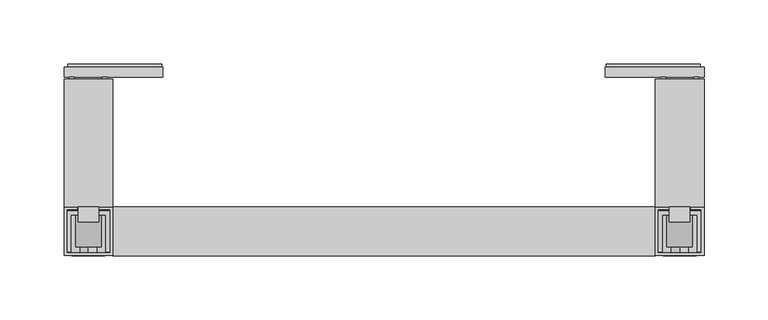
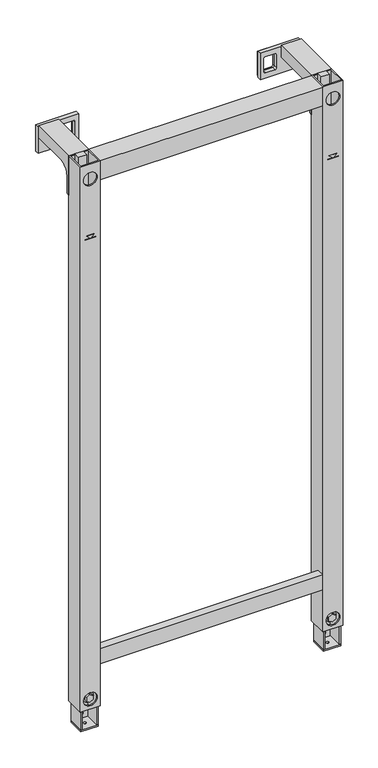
"""IFC4 building model written with IfcOpenShell, lengths in millimetres: flow terminal geometry, nextVIT Montageelement Dusch und Badewannenarmatur : nextVIT Montageelement Dusch und Badewannenarmatur."""

from ifc_helpers import new_model, si_unit, point, frame, frame_2d, origin, place, context, project, spatial, polyline, circle_curve, trimmed, segment, composite_curve, outline, extrude, source, transform, mapped, element, save
from ifc_brep_helpers import plane_surface, revolved_surface, advanced_brep


def flow_terminal_2a0403e4(model_context):
    return source(origin(), model_context, "Body", "SolidModel", [
        extrude(outline(polyline([(1141.522581, 173.5), (1093.522581, 173.5), (1093.522581, 247.0), (1141.522581, 247.0), (1141.522581, 173.5)]), holes=[composite_curve([segment(polyline([(1104.522581, 180.0), (1130.522581, 180.0)]), True, "CONTINUOUS"), segment(trimmed(circle_curve(frame_2d((1130.522581, 183.0)), 3.0), [point((1130.522581, 180.0))], [point((1133.522581, 183.0))], True, "CARTESIAN"), True, "CONTINUOUS"), segment(polyline([(1133.522581, 183.0), (1133.522581, 200.5)]), True, "CONTINUOUS"), segment(trimmed(circle_curve(frame_2d((1130.522581, 200.5)), 3.0), [point((1133.522581, 200.5))], [point((1130.522581, 203.5))], True, "CARTESIAN"), True, "CONTINUOUS"), segment(polyline([(1130.522581, 203.5), (1104.522581, 203.5)]), True, "CONTINUOUS"), segment(trimmed(circle_curve(frame_2d((1104.522581, 200.5)), 3.0), [point((1104.522581, 203.5))], [point((1101.522581, 200.5))], True, "CARTESIAN"), True, "CONTINUOUS"), segment(polyline([(1101.522581, 200.5), (1101.522581, 183.0)]), True, "CONTINUOUS"), segment(trimmed(circle_curve(frame_2d((1104.522581, 183.0)), 3.0), [point((1101.522581, 183.0))], [point((1104.522581, 180.0))], True, "CARTESIAN"), True, "CONTINUOUS")], self_intersect=False)]), frame((0.0, -2.5, 0.0), z_axis=(0.0, 1.0, 0.0), x_axis=(0.0, 0.0, 1.0)), (0.0, 0.0, 1.0), 2.5),
        extrude(outline(polyline([(1141.522581, -173.5), (1141.522581, -247.0), (1093.522581, -247.0), (1093.522581, -173.5), (1141.522581, -173.5)]), holes=[composite_curve([segment(trimmed(circle_curve(frame_2d((1104.522581, -183.0)), 3.0), [point((1104.522581, -180.0))], [point((1101.522581, -183.0))], True, "CARTESIAN"), True, "CONTINUOUS"), segment(polyline([(1101.522581, -183.0), (1101.522581, -200.5)]), True, "CONTINUOUS"), segment(trimmed(circle_curve(frame_2d((1104.522581, -200.5)), 3.0), [point((1101.522581, -200.5))], [point((1104.522581, -203.5))], True, "CARTESIAN"), True, "CONTINUOUS"), segment(polyline([(1104.522581, -203.5), (1130.522581, -203.5)]), True, "CONTINUOUS"), segment(trimmed(circle_curve(frame_2d((1130.522581, -200.5)), 3.0), [point((1130.522581, -203.5))], [point((1133.522581, -200.5))], True, "CARTESIAN"), True, "CONTINUOUS"), segment(polyline([(1133.522581, -200.5), (1133.522581, -183.0)]), True, "CONTINUOUS"), segment(trimmed(circle_curve(frame_2d((1130.522581, -183.0)), 3.0), [point((1133.522581, -183.0))], [point((1130.522581, -180.0))], True, "CARTESIAN"), True, "CONTINUOUS"), segment(polyline([(1130.522581, -180.0), (1104.522581, -180.0)]), True, "CONTINUOUS")], self_intersect=False)]), frame((0.0, -2.5, 0.0), z_axis=(0.0, 1.0, 0.0), x_axis=(0.0, 0.0, 1.0)), (0.0, 0.0, 1.0), 2.5),
        extrude(outline(polyline([(-223.0, -112.0), (-223.0, -123.5), (-239.0, -123.5), (-239.0, -112.0), (-223.0, -112.0)])), frame((0.0, 0.0, 1113.0), z_axis=(0.0, 0.0, 1.0), x_axis=(1.0, 0.0, 0.0)), (0.0, 0.0, 1.0), 35.0),
        extrude(outline(polyline([(1144.022581, -250.0), (1091.022581, -250.0), (1091.022581, -173.0), (1144.022581, -173.0), (1144.022581, -250.0)]), holes=[composite_curve([segment(polyline([(1133.522581, -200.5), (1133.522581, -183.0)]), True, "CONTINUOUS"), segment(trimmed(circle_curve(frame_2d((1130.522581, -183.0)), 3.0), [point((1133.522581, -183.0))], [point((1130.522581, -180.0))], True, "CARTESIAN"), True, "CONTINUOUS"), segment(polyline([(1130.522581, -180.0), (1104.522581, -180.0)]), True, "CONTINUOUS"), segment(trimmed(circle_curve(frame_2d((1104.522581, -183.0)), 3.0), [point((1104.522581, -180.0))], [point((1101.522581, -183.0))], True, "CARTESIAN"), True, "CONTINUOUS"), segment(polyline([(1101.522581, -183.0), (1101.522581, -200.5)]), True, "CONTINUOUS"), segment(trimmed(circle_curve(frame_2d((1104.522581, -200.5)), 3.0), [point((1101.522581, -200.5))], [point((1104.522581, -203.5))], True, "CARTESIAN"), True, "CONTINUOUS"), segment(polyline([(1104.522581, -203.5), (1130.522581, -203.5)]), True, "CONTINUOUS"), segment(trimmed(circle_curve(frame_2d((1130.522581, -200.5)), 3.0), [point((1130.522581, -203.5))], [point((1133.522581, -200.5))], True, "CARTESIAN"), True, "CONTINUOUS")], self_intersect=False)]), frame((0.0, -10.5, 0.0), z_axis=(0.0, 1.0, 0.0), x_axis=(0.0, 0.0, 1.0)), (0.0, 0.0, 1.0), 8.0),
        extrude(outline(polyline([(1128.022581, -220.05), (1128.022581, -241.95), (1145.0, -241.95), (1145.0, -245.95), (1124.5225837, -245.95), (1124.5225837, -216.05), (1145.0, -216.05), (1145.0, -220.05), (1128.022581, -220.05)])), frame((0.0, -105.0, 0.0), z_axis=(0.0, 1.0, 0.0), x_axis=(0.0, 0.0, 1.0)), (0.0, 0.0, 1.0), 94.5),
        advanced_brep(
        [(-212.0, -12.0882353, 1124.0), (-212.0, -12.0882353, 1148.0), (-212.0, -112.0, 1148.0), (-212.0, -112.0, 1069.0231613), (-212.0, -106.0, 1069.0231613), (-212.0, -106.0, 1104.0), (-212.0, -86.0, 1124.0), (-250.0, -12.0882353, 1124.0), (-250.0, -86.0, 1124.0), (-250.0, -106.0, 1104.0), (-250.0, -106.0, 1069.0231613), (-250.0, -112.0, 1069.0231613), (-250.0, -112.0, 1148.0), (-250.0, -12.0882353, 1148.0), (-215.0, -12.0882353, 1124.0), (-215.0, -12.0882353, 1144.0), (-247.0, -12.0882353, 1144.0), (-247.0, -12.0882353, 1124.0), (-247.0, -106.0, 1104.0), (-247.0, -106.0, 1144.0), (-215.0, -106.0, 1144.0), (-215.0, -106.0, 1104.0), (-215.0, -86.0, 1124.0), (-247.0, -86.0, 1124.0)],
        [
            (0, 1),
            (1, 2),
            (2, 3),
            (3, 4),
            (4, 5),
            (5, 6, circle_curve(frame((-212.0, -86.0, 1104.0), z_axis=(-1.0, 0.0, 0.0), x_axis=(0.0, 1.0, 0.0)), 20.0)),
            (6, 0),
            (7, 8),
            (8, 9, circle_curve(frame((-250.0, -86.0, 1104.0), z_axis=(1.0, 0.0, 0.0), x_axis=(0.0, 1.0, 0.0)), 20.0)),
            (9, 10),
            (10, 11),
            (11, 12),
            (12, 13),
            (13, 7),
            (0, 14),
            (14, 15),
            (15, 16),
            (16, 17),
            (17, 7),
            (13, 1),
            (12, 2),
            (11, 3),
            (10, 4),
            (9, 18),
            (18, 19),
            (19, 20),
            (20, 21),
            (21, 5),
            (21, 22, circle_curve(frame((-215.0, -86.0, 1104.0), z_axis=(-1.0, 0.0, 0.0), x_axis=(0.0, 1.0, 0.0)), 20.0)),
            (22, 6),
            (8, 23),
            (23, 18, circle_curve(frame((-247.0, -86.0, 1104.0), z_axis=(1.0, 0.0, 0.0), x_axis=(0.0, 1.0, 0.0)), 20.0)),
            (22, 14),
            (17, 23),
            (20, 15),
            (19, 16),
        ],
        [
            plane_surface(frame((-212.0, -12.0882353, 1124.0), z_axis=(1.0, 0.0, 0.0), x_axis=(0.0, 0.0, 1.0))),
            plane_surface(frame((-250.0, -12.0882353, 1124.0), z_axis=(-1.0, 0.0, 0.0), x_axis=(0.0, 0.0, -1.0))),
            plane_surface(frame((-212.0, -12.0882353, 1124.0), z_axis=(0.0, 1.0, 0.0), x_axis=(-1.0, 0.0, 0.0))),
            plane_surface(frame((-212.0, -12.0882353, 1148.0), z_axis=(0.0, 0.0, 1.0), x_axis=(-1.0, 0.0, 0.0))),
            plane_surface(frame((-212.0, -112.0, 1148.0), z_axis=(0.0, -1.0, 0.0), x_axis=(-1.0, 0.0, 0.0))),
            plane_surface(frame((-212.0, -112.0, 1069.0231613), z_axis=(0.0, 0.0, -1.0), x_axis=(-1.0, 0.0, 0.0))),
            plane_surface(frame((-212.0, -106.0, 1069.0231613), z_axis=(0.0, 1.0, 0.0), x_axis=(-1.0, 0.0, 0.0))),
            revolved_surface(polyline([(-215.0, -66.0, 1104.0), (-212.0, -66.0, 1104.0)]), (-250.0, -86.0, 1104.0), (-1.0, 0.0, 0.0)),
            revolved_surface(polyline([(-250.0, -66.0, 1104.0), (-247.0, -66.0, 1104.0)]), (-250.0, -86.0, 1104.0), (-1.0, 0.0, 0.0)),
            plane_surface(frame((-212.0, -86.0, 1124.0), z_axis=(0.0, 0.0, -1.0), x_axis=(-1.0, 0.0, 0.0))),
            plane_surface(frame((-215.0, -106.0, 1102.9875977), z_axis=(-1.0, 0.0, 0.0), x_axis=(0.0, 1.0, 0.0))),
            plane_surface(frame((-215.0, -106.0, 1144.0), z_axis=(0.0, 0.0, -1.0), x_axis=(0.0, 1.0, 0.0))),
            plane_surface(frame((-247.0, -106.0, 1144.0), z_axis=(1.0, 0.0, 0.0), x_axis=(0.0, 1.0, 0.0))),
        ],
        [
            (0, [[1, 2, 3, 4, 5, 6, 7]]),
            (1, [[8, 9, 10, 11, 12, 13, 14]]),
            (2, [[-1, 15, 16, 17, 18, 19, -14, 20]]),
            (3, [[-2, -20, -13, 21]]),
            (4, [[-3, -21, -12, 22]]),
            (5, [[-4, -22, -11, 23]]),
            (6, [[-5, -23, -10, 24, 25, 26, 27, 28]]),
            (7, [[-6, -28, 29, 30]]),
            (8, [[-9, 31, 32, -24]]),
            (9, [[-7, -30, 33, -15]]),
            (9, [[-8, -19, 34, -31]]),
            (10, [[35, -16, -33, -29, -27]]),
            (11, [[-26, 36, -17, -35]]),
            (12, [[-36, -25, -32, -34, -18]]),
        ],
    ),
        extrude(outline(polyline([(223.0, -112.0), (239.0, -112.0), (239.0, -123.5), (223.0, -123.5), (223.0, -112.0)])), frame((0.0, 0.0, 1113.0), z_axis=(0.0, 0.0, 1.0), x_axis=(1.0, 0.0, 0.0)), (0.0, 0.0, 1.0), 35.0),
        extrude(outline(polyline([(1144.022581, 250.0), (1144.022581, 173.0), (1091.022581, 173.0), (1091.022581, 250.0), (1144.022581, 250.0)]), holes=[composite_curve([segment(trimmed(circle_curve(frame_2d((1130.522581, 200.5)), 3.0), [point((1133.522581, 200.5))], [point((1130.522581, 203.5))], True, "CARTESIAN"), True, "CONTINUOUS"), segment(polyline([(1130.522581, 203.5), (1104.522581, 203.5)]), True, "CONTINUOUS"), segment(trimmed(circle_curve(frame_2d((1104.522581, 200.5)), 3.0), [point((1104.522581, 203.5))], [point((1101.522581, 200.5))], True, "CARTESIAN"), True, "CONTINUOUS"), segment(polyline([(1101.522581, 200.5), (1101.522581, 183.0)]), True, "CONTINUOUS"), segment(trimmed(circle_curve(frame_2d((1104.522581, 183.0)), 3.0), [point((1101.522581, 183.0))], [point((1104.522581, 180.0))], True, "CARTESIAN"), True, "CONTINUOUS"), segment(polyline([(1104.522581, 180.0), (1130.522581, 180.0)]), True, "CONTINUOUS"), segment(trimmed(circle_curve(frame_2d((1130.522581, 183.0)), 3.0), [point((1130.522581, 180.0))], [point((1133.522581, 183.0))], True, "CARTESIAN"), True, "CONTINUOUS"), segment(polyline([(1133.522581, 183.0), (1133.522581, 200.5)]), True, "CONTINUOUS")], self_intersect=False)]), frame((0.0, -10.5, 0.0), z_axis=(0.0, 1.0, 0.0), x_axis=(0.0, 0.0, 1.0)), (0.0, 0.0, 1.0), 8.0),
        extrude(outline(polyline([(1128.022581, 220.05), (1145.0, 220.05), (1145.0, 216.05), (1124.5225837, 216.05), (1124.5225837, 245.95), (1145.0, 245.95), (1145.0, 241.95), (1128.022581, 241.95), (1128.022581, 220.05)])), frame((0.0, -105.0, 0.0), z_axis=(0.0, 1.0, 0.0), x_axis=(0.0, 0.0, 1.0)), (0.0, 0.0, 1.0), 94.5),
        advanced_brep(
        [(212.0, -12.0882353, 1124.0), (212.0, -86.0, 1124.0), (212.0, -106.0, 1104.0), (212.0, -106.0, 1069.0231613), (212.0, -112.0, 1069.0231613), (212.0, -112.0, 1148.0), (212.0, -12.0882353, 1148.0), (250.0, -12.0882353, 1124.0), (250.0, -12.0882353, 1148.0), (250.0, -112.0, 1148.0), (250.0, -112.0, 1069.0231613), (250.0, -106.0, 1069.0231613), (250.0, -106.0, 1104.0), (250.0, -86.0, 1124.0), (247.0, -12.0882353, 1124.0), (247.0, -12.0882353, 1144.0), (215.0, -12.0882353, 1144.0), (215.0, -12.0882353, 1124.0), (215.0, -106.0, 1104.0), (215.0, -106.0, 1144.0), (247.0, -106.0, 1144.0), (247.0, -106.0, 1104.0), (215.0, -86.0, 1124.0), (247.0, -86.0, 1124.0)],
        [
            (0, 1),
            (1, 2, circle_curve(frame((212.0, -86.0, 1104.0), z_axis=(1.0, 0.0, 0.0), x_axis=(0.0, 1.0, 0.0)), 20.0)),
            (2, 3),
            (3, 4),
            (4, 5),
            (5, 6),
            (6, 0),
            (7, 8),
            (8, 9),
            (9, 10),
            (10, 11),
            (11, 12),
            (12, 13, circle_curve(frame((250.0, -86.0, 1104.0), z_axis=(-1.0, 0.0, 0.0), x_axis=(0.0, 1.0, 0.0)), 20.0)),
            (13, 7),
            (6, 8),
            (7, 14),
            (14, 15),
            (15, 16),
            (16, 17),
            (17, 0),
            (5, 9),
            (4, 10),
            (3, 11),
            (2, 18),
            (18, 19),
            (19, 20),
            (20, 21),
            (21, 12),
            (1, 22),
            (22, 18, circle_curve(frame((215.0, -86.0, 1104.0), z_axis=(1.0, 0.0, 0.0), x_axis=(0.0, 1.0, 0.0)), 20.0)),
            (21, 23, circle_curve(frame((247.0, -86.0, 1104.0), z_axis=(-1.0, 0.0, 0.0), x_axis=(0.0, 1.0, 0.0)), 20.0)),
            (23, 13),
            (17, 22),
            (23, 14),
            (16, 19),
            (15, 20),
        ],
        [
            plane_surface(frame((212.0, -12.0882353, 1124.0), z_axis=(-1.0, 0.0, 0.0), x_axis=(0.0, 0.0, -1.0))),
            plane_surface(frame((250.0, -12.0882353, 1124.0), z_axis=(1.0, 0.0, 0.0), x_axis=(0.0, 0.0, 1.0))),
            plane_surface(frame((250.0, -12.0882353, 1124.0), z_axis=(0.0, 1.0, 0.0), x_axis=(-1.0, 0.0, 0.0))),
            plane_surface(frame((250.0, -12.0882353, 1148.0), z_axis=(0.0, 0.0, 1.0), x_axis=(-1.0, 0.0, 0.0))),
            plane_surface(frame((250.0, -112.0, 1148.0), z_axis=(0.0, -1.0, 0.0), x_axis=(-1.0, 0.0, 0.0))),
            plane_surface(frame((250.0, -112.0, 1069.0231613), z_axis=(0.0, 0.0, -1.0), x_axis=(-1.0, 0.0, 0.0))),
            plane_surface(frame((250.0, -106.0, 1069.0231613), z_axis=(0.0, 1.0, 0.0), x_axis=(-1.0, 0.0, 0.0))),
            revolved_surface(polyline([(212.0, -66.0, 1104.0), (215.0, -66.0, 1104.0)]), (212.0, -86.0, 1104.0), (-1.0, 0.0, 0.0)),
            revolved_surface(polyline([(247.0, -66.0, 1104.0), (250.0, -66.0, 1104.0)]), (212.0, -86.0, 1104.0), (-1.0, 0.0, 0.0)),
            plane_surface(frame((250.0, -86.0, 1124.0), z_axis=(0.0, 0.0, -1.0), x_axis=(-1.0, 0.0, 0.0))),
            plane_surface(frame((215.0, -106.0, 1144.0), z_axis=(1.0, 0.0, 0.0), x_axis=(0.0, 1.0, 0.0))),
            plane_surface(frame((247.0, -106.0, 1144.0), z_axis=(0.0, 0.0, -1.0), x_axis=(0.0, 1.0, 0.0))),
            plane_surface(frame((247.0, -106.0, 1102.9875977), z_axis=(-1.0, 0.0, 0.0), x_axis=(0.0, 1.0, 0.0))),
        ],
        [
            (0, [[1, 2, 3, 4, 5, 6, 7]]),
            (1, [[8, 9, 10, 11, 12, 13, 14]]),
            (2, [[-7, 15, -8, 16, 17, 18, 19, 20]]),
            (3, [[-6, 21, -9, -15]]),
            (4, [[-5, 22, -10, -21]]),
            (5, [[-4, 23, -11, -22]]),
            (6, [[-3, 24, 25, 26, 27, 28, -12, -23]]),
            (7, [[-2, 29, 30, -24]]),
            (8, [[-13, -28, 31, 32]]),
            (9, [[-1, -20, 33, -29]]),
            (9, [[-14, -32, 34, -16]]),
            (10, [[35, -25, -30, -33, -19]]),
            (11, [[-26, -35, -18, 36]]),
            (12, [[-36, -17, -34, -31, -27]]),
        ],
    ),
        extrude(outline(polyline([(79.7055535, -231.0), (75.9527767, -237.5), (68.4472233, -237.5), (64.6944465, -231.0), (68.4472233, -224.5), (75.9527767, -224.5), (79.7055535, -231.0)])), frame((0.0, -148.3, 0.0), z_axis=(0.0, 1.0, 0.0), x_axis=(0.0, 0.0, 1.0)), (0.0, 0.0, 1.0), 5.3),
        extrude(outline(composite_curve([segment(trimmed(circle_curve(frame_2d((72.2, -231.0)), 10.0), [point((72.2, -241.0))], [point((72.2, -221.0))], False, "CARTESIAN"), True, "CONTINUOUS"), segment(trimmed(circle_curve(frame_2d((72.2, -231.0)), 10.0), [point((72.2, -221.0))], [point((72.2, -241.0))], False, "CARTESIAN"), True, "CONTINUOUS")], self_intersect=False)), frame((0.0, -143.0, 0.0), z_axis=(0.0, 1.0, 0.0), x_axis=(0.0, 0.0, 1.0)), (0.0, 0.0, 1.0), 26.0),
        extrude(outline(polyline([(-246.0, -109.0), (-216.0, -109.0), (-216.0, -112.0), (-246.0, -112.0), (-246.0, -109.0)])), frame((0.0, 0.0, 52.2), z_axis=(0.0, 0.0, 1.0), x_axis=(1.0, 0.0, 0.0)), (0.0, 0.0, 1.0), 40.0),
        extrude(outline(composite_curve([segment(trimmed(circle_curve(frame_2d((72.2, -231.0)), 4.0), [point((72.2, -235.0))], [point((72.2, -227.0))], False, "CARTESIAN"), True, "CONTINUOUS"), segment(trimmed(circle_curve(frame_2d((72.2, -231.0)), 4.0), [point((72.2, -227.0))], [point((72.2, -235.0))], False, "CARTESIAN"), True, "CONTINUOUS")], self_intersect=False)), frame((0.0, -117.0, 0.0), z_axis=(0.0, 1.0, 0.0), x_axis=(0.0, 0.0, 1.0)), (0.0, 0.0, 1.0), 19.0),
        extrude(outline(polyline([(-214.4, -147.1), (-247.6, -147.1), (-247.6, -114.9), (-214.4, -114.9), (-214.4, -147.1)]), holes=[composite_curve([segment(trimmed(circle_curve(frame_2d((-231.0, -131.9)), 2.5), [point((-228.5, -131.9))], [point((-233.5, -131.9))], True, "CARTESIAN"), True, "CONTINUOUS"), segment(trimmed(circle_curve(frame_2d((-231.0, -131.9)), 2.5), [point((-233.5, -131.9))], [point((-228.5, -131.9))], True, "CARTESIAN"), True, "CONTINUOUS")], self_intersect=False)]), frame((0.0, 0.0, 10.5), z_axis=(0.0, 0.0, 1.0), x_axis=(1.0, 0.0, 0.0)), (0.0, 0.0, 1.0), 3.0),
        advanced_brep(
        [(-244.6, -147.1, 363.5), (-244.6, -117.9, 363.5), (-217.4, -117.9, 363.5), (-217.4, -147.1, 363.5), (-214.4, -147.1, 363.5), (-214.4, -114.9, 363.5), (-247.6, -114.9, 363.5), (-247.6, -147.1, 363.5), (-244.6, -147.1, 13.5), (-247.6, -147.1, 13.5), (-247.6, -114.9, 13.5), (-214.4, -114.9, 13.5), (-214.4, -147.1, 13.5), (-217.4, -147.1, 13.5), (-217.4, -117.9, 13.5), (-244.6, -117.9, 13.5), (-226.5, -114.9, 23.6801435), (-235.5, -114.9, 23.6801435), (-226.0, -114.9, 37.7), (-226.0, -114.9, 335.5), (-236.0, -114.9, 335.5), (-236.0, -114.9, 37.7), (-235.5, -117.9, 23.6801435), (-226.5, -117.9, 23.6801435), (-226.0, -117.9, 335.5), (-226.0, -117.9, 37.7), (-236.0, -117.9, 37.7), (-236.0, -117.9, 335.5)],
        [
            (0, 1),
            (1, 2),
            (2, 3),
            (3, 4),
            (4, 5),
            (5, 6),
            (6, 7),
            (7, 0),
            (8, 9),
            (9, 10),
            (10, 11),
            (11, 12),
            (12, 13),
            (13, 14),
            (14, 15),
            (15, 8),
            (4, 12),
            (11, 5),
            (10, 6),
            (16, 17, circle_curve(frame((-231.0, -114.9, 23.6801435), z_axis=(0.0, -1.0, 0.0), x_axis=(-1.0, 0.0, 0.0)), 4.5)),
            (17, 16, circle_curve(frame((-231.0, -114.9, 23.6801435), z_axis=(0.0, -1.0, 0.0), x_axis=(-1.0, 0.0, 0.0)), 4.5)),
            (18, 19),
            (19, 20, circle_curve(frame((-231.0, -114.9, 335.5), z_axis=(0.0, -1.0, 0.0), x_axis=(-1.0, 0.0, 0.0)), 5.0)),
            (20, 21),
            (21, 18, circle_curve(frame((-231.0, -114.9, 37.7), z_axis=(0.0, -1.0, 0.0), x_axis=(-1.0, 0.0, 0.0)), 5.0)),
            (9, 7),
            (8, 0),
            (15, 1),
            (14, 2),
            (22, 23, circle_curve(frame((-231.0, -117.9, 23.6801435), z_axis=(0.0, 1.0, 0.0), x_axis=(-1.0, 0.0, 0.0)), 4.5)),
            (23, 22, circle_curve(frame((-231.0, -117.9, 23.6801435), z_axis=(0.0, 1.0, 0.0), x_axis=(-1.0, 0.0, 0.0)), 4.5)),
            (24, 25),
            (25, 26, circle_curve(frame((-231.0, -117.9, 37.7), z_axis=(0.0, 1.0, 0.0), x_axis=(-1.0, 0.0, 0.0)), 5.0)),
            (26, 27),
            (27, 24, circle_curve(frame((-231.0, -117.9, 335.5), z_axis=(0.0, 1.0, 0.0), x_axis=(-1.0, 0.0, 0.0)), 5.0)),
            (13, 3),
            (22, 17),
            (16, 23),
            (24, 19),
            (18, 25),
            (27, 20),
            (26, 21),
        ],
        [
            plane_surface(frame((-244.6, -147.1, 363.5), z_axis=(0.0, 0.0, 1.0), x_axis=(0.0, 1.0, 0.0))),
            plane_surface(frame((-244.6, -147.1, 13.5), z_axis=(0.0, 0.0, -1.0), x_axis=(0.0, -1.0, 0.0))),
            plane_surface(frame((-214.4, -147.1, 363.5), z_axis=(1.0, 0.0, 0.0), x_axis=(0.0, 0.0, -1.0))),
            plane_surface(frame((-214.4, -114.9, 363.5), z_axis=(0.0, 1.0, 0.0), x_axis=(0.0, 0.0, -1.0))),
            plane_surface(frame((-247.6, -114.9, 363.5), z_axis=(-1.0, 0.0, 0.0), x_axis=(0.0, 0.0, -1.0))),
            plane_surface(frame((-247.6, -147.1, 363.5), z_axis=(0.0, -1.0, 0.0), x_axis=(0.0, 0.0, -1.0))),
            plane_surface(frame((-244.6, -147.1, 363.5), z_axis=(1.0, 0.0, 0.0), x_axis=(0.0, 0.0, -1.0))),
            plane_surface(frame((-244.6, -117.9, 363.5), z_axis=(0.0, -1.0, 0.0), x_axis=(0.0, 0.0, -1.0))),
            plane_surface(frame((-217.4, -117.9, 363.5), z_axis=(-1.0, 0.0, 0.0), x_axis=(0.0, 0.0, -1.0))),
            plane_surface(frame((-217.4, -147.1, 363.5), z_axis=(0.0, -1.0, 0.0), x_axis=(0.0, 0.0, -1.0))),
            revolved_surface(polyline([(-235.5, -117.9, 23.6801435), (-235.5, -114.9, 23.6801435)]), (-231.0, -117.9, 23.6801435), (0.0, -1.0, 0.0)),
            plane_surface(frame((-226.0, -117.9, 37.7), z_axis=(-1.0, 0.0, 0.0), x_axis=(0.0, 1.0, 0.0))),
            revolved_surface(polyline([(-236.0, -117.9, 335.5), (-236.0, -114.9, 335.5)]), (-231.0, -117.9, 335.5), (0.0, -1.0, 0.0)),
            plane_surface(frame((-236.0, -117.9, 335.5), z_axis=(1.0, 0.0, 0.0), x_axis=(0.0, 1.0, 0.0))),
            revolved_surface(polyline([(-236.0, -117.9, 37.7), (-236.0, -114.9, 37.7)]), (-231.0, -117.9, 37.7), (0.0, -1.0, 0.0)),
        ],
        [
            (0, [[1, 2, 3, 4, 5, 6, 7, 8]]),
            (1, [[9, 10, 11, 12, 13, 14, 15, 16]]),
            (2, [[-5, 17, -12, 18]]),
            (3, [[-6, -18, -11, 19], [20, 21], [22, 23, 24, 25]]),
            (4, [[-7, -19, -10, 26]]),
            (5, [[-8, -26, -9, 27]]),
            (6, [[-1, -27, -16, 28]]),
            (7, [[-2, -28, -15, 29], [30, 31], [32, 33, 34, 35]]),
            (8, [[-3, -29, -14, 36]]),
            (9, [[-4, -36, -13, -17]]),
            (10, [[37, -20, 38, -30]]),
            (10, [[-37, -31, -38, -21]]),
            (11, [[39, -22, 40, -32]]),
            (12, [[-39, -35, 41, -23]]),
            (13, [[-41, -34, 42, -24]]),
            (14, [[-40, -25, -42, -33]]),
        ],
    ),
        extrude(outline(polyline([(79.7055535, 231.0), (75.9527767, 224.5), (68.4472233, 224.5), (64.6944465, 231.0), (68.4472233, 237.5), (75.9527767, 237.5), (79.7055535, 231.0)])), frame((0.0, -148.3, 0.0), z_axis=(0.0, 1.0, 0.0), x_axis=(0.0, 0.0, 1.0)), (0.0, 0.0, 1.0), 5.3),
        extrude(outline(composite_curve([segment(trimmed(circle_curve(frame_2d((72.2, 231.0)), 10.0), [point((72.2, 241.0))], [point((72.2, 221.0))], False, "CARTESIAN"), True, "CONTINUOUS"), segment(trimmed(circle_curve(frame_2d((72.2, 231.0)), 10.0), [point((72.2, 221.0))], [point((72.2, 241.0))], False, "CARTESIAN"), True, "CONTINUOUS")], self_intersect=False)), frame((0.0, -143.0, 0.0), z_axis=(0.0, 1.0, 0.0), x_axis=(0.0, 0.0, 1.0)), (0.0, 0.0, 1.0), 26.0),
        extrude(outline(polyline([(246.0, -109.0), (246.0, -112.0), (216.0, -112.0), (216.0, -109.0), (246.0, -109.0)])), frame((0.0, 0.0, 52.2), z_axis=(0.0, 0.0, 1.0), x_axis=(1.0, 0.0, 0.0)), (0.0, 0.0, 1.0), 40.0),
        extrude(outline(composite_curve([segment(trimmed(circle_curve(frame_2d((72.2, 231.0)), 4.0), [point((72.2, 235.0))], [point((72.2, 227.0))], False, "CARTESIAN"), True, "CONTINUOUS"), segment(trimmed(circle_curve(frame_2d((72.2, 231.0)), 4.0), [point((72.2, 227.0))], [point((72.2, 235.0))], False, "CARTESIAN"), True, "CONTINUOUS")], self_intersect=False)), frame((0.0, -117.0, 0.0), z_axis=(0.0, 1.0, 0.0), x_axis=(0.0, 0.0, 1.0)), (0.0, 0.0, 1.0), 19.0),
        extrude(outline(polyline([(214.4, -147.1), (214.4, -114.9), (247.6, -114.9), (247.6, -147.1), (214.4, -147.1)]), holes=[composite_curve([segment(trimmed(circle_curve(frame_2d((231.0, -131.9)), 2.5), [point((228.5, -131.9))], [point((233.5, -131.9))], True, "CARTESIAN"), True, "CONTINUOUS"), segment(trimmed(circle_curve(frame_2d((231.0, -131.9)), 2.5), [point((233.5, -131.9))], [point((228.5, -131.9))], True, "CARTESIAN"), True, "CONTINUOUS")], self_intersect=False)]), frame((0.0, 0.0, 10.5), z_axis=(0.0, 0.0, 1.0), x_axis=(1.0, 0.0, 0.0)), (0.0, 0.0, 1.0), 3.0),
        advanced_brep(
        [(244.6, -147.1, 363.5), (247.6, -147.1, 363.5), (247.6, -114.9, 363.5), (214.4, -114.9, 363.5), (214.4, -147.1, 363.5), (217.4, -147.1, 363.5), (217.4, -117.9, 363.5), (244.6, -117.9, 363.5), (244.6, -147.1, 13.5), (244.6, -117.9, 13.5), (217.4, -117.9, 13.5), (217.4, -147.1, 13.5), (214.4, -147.1, 13.5), (214.4, -114.9, 13.5), (247.6, -114.9, 13.5), (247.6, -147.1, 13.5), (226.5, -114.9, 23.6801435), (235.5, -114.9, 23.6801435), (226.0, -114.9, 37.7), (236.0, -114.9, 37.7), (236.0, -114.9, 335.5), (226.0, -114.9, 335.5), (235.5, -117.9, 23.6801435), (226.5, -117.9, 23.6801435), (226.0, -117.9, 335.5), (236.0, -117.9, 335.5), (236.0, -117.9, 37.7), (226.0, -117.9, 37.7)],
        [
            (0, 1),
            (1, 2),
            (2, 3),
            (3, 4),
            (4, 5),
            (5, 6),
            (6, 7),
            (7, 0),
            (8, 9),
            (9, 10),
            (10, 11),
            (11, 12),
            (12, 13),
            (13, 14),
            (14, 15),
            (15, 8),
            (3, 13),
            (12, 4),
            (2, 14),
            (16, 17, circle_curve(frame((231.0, -114.9, 23.6801435), z_axis=(0.0, -1.0, 0.0), x_axis=(1.0, 0.0, 0.0)), 4.5)),
            (17, 16, circle_curve(frame((231.0, -114.9, 23.6801435), z_axis=(0.0, -1.0, 0.0), x_axis=(1.0, 0.0, 0.0)), 4.5)),
            (18, 19, circle_curve(frame((231.0, -114.9, 37.7), z_axis=(0.0, -1.0, 0.0), x_axis=(1.0, 0.0, 0.0)), 5.0)),
            (19, 20),
            (20, 21, circle_curve(frame((231.0, -114.9, 335.5), z_axis=(0.0, -1.0, 0.0), x_axis=(1.0, 0.0, 0.0)), 5.0)),
            (21, 18),
            (1, 15),
            (0, 8),
            (7, 9),
            (6, 10),
            (22, 23, circle_curve(frame((231.0, -117.9, 23.6801435), z_axis=(0.0, 1.0, 0.0), x_axis=(1.0, 0.0, 0.0)), 4.5)),
            (23, 22, circle_curve(frame((231.0, -117.9, 23.6801435), z_axis=(0.0, 1.0, 0.0), x_axis=(1.0, 0.0, 0.0)), 4.5)),
            (24, 25, circle_curve(frame((231.0, -117.9, 335.5), z_axis=(0.0, 1.0, 0.0), x_axis=(1.0, 0.0, 0.0)), 5.0)),
            (25, 26),
            (26, 27, circle_curve(frame((231.0, -117.9, 37.7), z_axis=(0.0, 1.0, 0.0), x_axis=(1.0, 0.0, 0.0)), 5.0)),
            (27, 24),
            (5, 11),
            (23, 16),
            (17, 22),
            (27, 18),
            (21, 24),
            (20, 25),
            (19, 26),
        ],
        [
            plane_surface(frame((244.6, -147.1, 363.5), z_axis=(0.0, 0.0, 1.0), x_axis=(0.0, 1.0, 0.0))),
            plane_surface(frame((244.6, -147.1, 13.5), z_axis=(0.0, 0.0, -1.0), x_axis=(0.0, -1.0, 0.0))),
            plane_surface(frame((214.4, -147.1, 363.5), z_axis=(-1.0, 0.0, 0.0), x_axis=(0.0, 0.0, -1.0))),
            plane_surface(frame((214.4, -114.9, 363.5), z_axis=(0.0, 1.0, 0.0), x_axis=(0.0, 0.0, -1.0))),
            plane_surface(frame((247.6, -114.9, 363.5), z_axis=(1.0, 0.0, 0.0), x_axis=(0.0, 0.0, -1.0))),
            plane_surface(frame((247.6, -147.1, 363.5), z_axis=(0.0, -1.0, 0.0), x_axis=(0.0, 0.0, -1.0))),
            plane_surface(frame((244.6, -147.1, 363.5), z_axis=(-1.0, 0.0, 0.0), x_axis=(0.0, 0.0, -1.0))),
            plane_surface(frame((244.6, -117.9, 363.5), z_axis=(0.0, -1.0, 0.0), x_axis=(0.0, 0.0, -1.0))),
            plane_surface(frame((217.4, -117.9, 363.5), z_axis=(1.0, 0.0, 0.0), x_axis=(0.0, 0.0, -1.0))),
            plane_surface(frame((217.4, -147.1, 363.5), z_axis=(0.0, -1.0, 0.0), x_axis=(0.0, 0.0, -1.0))),
            revolved_surface(polyline([(235.5, -117.9, 23.6801435), (235.5, -114.9, 23.6801435)]), (231.0, -117.9, 23.6801435), (0.0, -1.0, 0.0)),
            plane_surface(frame((226.0, -117.9, 37.7), z_axis=(1.0, 0.0, 0.0), x_axis=(0.0, 1.0, 0.0))),
            revolved_surface(polyline([(236.0, -117.9, 335.5), (236.0, -114.9, 335.5)]), (231.0, -117.9, 335.5), (0.0, -1.0, 0.0)),
            plane_surface(frame((236.0, -117.9, 335.5), z_axis=(-1.0, 0.0, 0.0), x_axis=(0.0, 1.0, 0.0))),
            revolved_surface(polyline([(236.0, -117.9, 37.7), (236.0, -114.9, 37.7)]), (231.0, -117.9, 37.7), (0.0, -1.0, 0.0)),
        ],
        [
            (0, [[1, 2, 3, 4, 5, 6, 7, 8]]),
            (1, [[9, 10, 11, 12, 13, 14, 15, 16]]),
            (2, [[17, -13, 18, -4]]),
            (3, [[19, -14, -17, -3], [20, 21], [22, 23, 24, 25]]),
            (4, [[26, -15, -19, -2]]),
            (5, [[27, -16, -26, -1]]),
            (6, [[28, -9, -27, -8]]),
            (7, [[29, -10, -28, -7], [30, 31], [32, 33, 34, 35]]),
            (8, [[36, -11, -29, -6]]),
            (9, [[-18, -12, -36, -5]]),
            (10, [[-31, 37, -21, 38]]),
            (10, [[-20, -37, -30, -38]]),
            (11, [[-35, 39, -25, 40]]),
            (12, [[-24, 41, -32, -40]]),
            (13, [[-23, 42, -33, -41]]),
            (14, [[-34, -42, -22, -39]]),
        ],
    ),
        extrude(outline(polyline([(998.0, -221.0), (998.8, -221.0), (998.8, -230.2), (1005.5, -223.5), (1005.5, -238.5), (998.8, -231.8), (998.8, -240.9917762), (998.0, -240.9917762), (998.0, -221.0)])), frame((0.0, -150.0390625, 0.0), z_axis=(0.0, 1.0, 0.0), x_axis=(0.0, 0.0, 1.0)), (0.0, 0.0, 1.0), 0.8),
        extrude(outline(polyline([(998.0, 241.0), (998.8, 241.0), (998.8, 231.8), (1005.5, 238.5), (1005.5, 223.5), (998.8, 230.2), (998.8, 221.0082238), (998.0, 221.0082238), (998.0, 241.0)])), frame((0.0, -150.0390625, 0.0), z_axis=(0.0, 1.0, 0.0), x_axis=(0.0, 0.0, 1.0)), (0.0, 0.0, 1.0), 0.8),
        advanced_brep(
        [(-250.0, -112.0, 1148.0), (-250.0, -150.0, 1148.0), (-212.0, -150.0, 1148.0), (-212.0, -112.0, 1148.0), (-222.5, -112.0, 1148.0), (-222.5, -114.0, 1148.0), (-214.0, -114.0, 1148.0), (-214.0, -148.0, 1148.0), (-248.0, -148.0, 1148.0), (-248.0, -114.0, 1148.0), (-239.5, -114.0, 1148.0), (-239.5, -112.0, 1148.0), (-250.0, -112.0, 52.0), (-239.5, -112.0, 52.0), (-239.5, -114.0, 52.0), (-248.0, -114.0, 52.0), (-248.0, -148.0, 52.0), (-214.0, -148.0, 52.0), (-214.0, -114.0, 52.0), (-222.5, -114.0, 52.0), (-222.5, -112.0, 52.0), (-212.0, -112.0, 52.0), (-212.0, -150.0, 52.0), (-250.0, -150.0, 52.0), (-218.0, -150.0, 72.0), (-244.0, -150.0, 72.0), (-218.0, -150.0, 1118.0), (-244.0, -150.0, 1118.0), (-244.0, -148.0, 72.0), (-218.0, -148.0, 72.0), (-244.0, -148.0, 1118.0), (-218.0, -148.0, 1118.0)],
        [
            (0, 1),
            (1, 2),
            (2, 3),
            (3, 4),
            (4, 5),
            (5, 6),
            (6, 7),
            (7, 8),
            (8, 9),
            (9, 10),
            (10, 11),
            (11, 0),
            (12, 13),
            (13, 14),
            (14, 15),
            (15, 16),
            (16, 17),
            (17, 18),
            (18, 19),
            (19, 20),
            (20, 21),
            (21, 22),
            (22, 23),
            (23, 12),
            (0, 12),
            (23, 1),
            (22, 2),
            (24, 25, circle_curve(frame((-231.0, -150.0, 72.0), z_axis=(0.0, 1.0, 0.0), x_axis=(1.0, 0.0, 0.0)), 13.0)),
            (25, 24, circle_curve(frame((-231.0, -150.0, 72.0), z_axis=(0.0, 1.0, 0.0), x_axis=(1.0, 0.0, 0.0)), 13.0)),
            (26, 27, circle_curve(frame((-231.0, -150.0, 1118.0), z_axis=(0.0, 1.0, 0.0), x_axis=(1.0, 0.0, 0.0)), 13.0)),
            (27, 26, circle_curve(frame((-231.0, -150.0, 1118.0), z_axis=(0.0, 1.0, 0.0), x_axis=(1.0, 0.0, 0.0)), 13.0)),
            (21, 3),
            (20, 4),
            (19, 5),
            (18, 6),
            (17, 7),
            (16, 8),
            (28, 29, circle_curve(frame((-231.0, -148.0, 72.0), z_axis=(0.0, -1.0, 0.0), x_axis=(1.0, 0.0, 0.0)), 13.0)),
            (29, 28, circle_curve(frame((-231.0, -148.0, 72.0), z_axis=(0.0, -1.0, 0.0), x_axis=(1.0, 0.0, 0.0)), 13.0)),
            (30, 31, circle_curve(frame((-231.0, -148.0, 1118.0), z_axis=(0.0, -1.0, 0.0), x_axis=(1.0, 0.0, 0.0)), 13.0)),
            (31, 30, circle_curve(frame((-231.0, -148.0, 1118.0), z_axis=(0.0, -1.0, 0.0), x_axis=(1.0, 0.0, 0.0)), 13.0)),
            (15, 9),
            (14, 10),
            (13, 11),
            (28, 25),
            (24, 29),
            (30, 27),
            (26, 31),
        ],
        [
            plane_surface(frame((-250.0, -150.0, 1148.0), z_axis=(0.0, 0.0, 1.0), x_axis=(0.0, -1.0, 0.0))),
            plane_surface(frame((-250.0, -150.0, 52.0), z_axis=(0.0, 0.0, -1.0), x_axis=(0.0, 1.0, 0.0))),
            plane_surface(frame((-250.0, -112.0, 1148.0), z_axis=(-1.0, 0.0, 0.0), x_axis=(0.0, 0.0, -1.0))),
            plane_surface(frame((-250.0, -150.0, 1148.0), z_axis=(0.0, -1.0, 0.0), x_axis=(0.0, 0.0, -1.0))),
            plane_surface(frame((-212.0, -150.0, 1148.0), z_axis=(1.0, 0.0, 0.0), x_axis=(0.0, 0.0, -1.0))),
            plane_surface(frame((-212.0, -112.0, 1148.0), z_axis=(0.0, 1.0, 0.0), x_axis=(0.0, 0.0, -1.0))),
            plane_surface(frame((-222.5, -112.0, 1148.0), z_axis=(-1.0, 0.0, 0.0), x_axis=(0.0, 0.0, -1.0))),
            plane_surface(frame((-222.5, -114.0, 1148.0), z_axis=(0.0, -1.0, 0.0), x_axis=(0.0, 0.0, -1.0))),
            plane_surface(frame((-214.0, -114.0, 1148.0), z_axis=(-1.0, 0.0, 0.0), x_axis=(0.0, 0.0, -1.0))),
            plane_surface(frame((-214.0, -148.0, 1148.0), z_axis=(0.0, 1.0, 0.0), x_axis=(0.0, 0.0, -1.0))),
            plane_surface(frame((-248.0, -148.0, 1148.0), z_axis=(1.0, 0.0, 0.0), x_axis=(0.0, 0.0, -1.0))),
            plane_surface(frame((-248.0, -114.0, 1148.0), z_axis=(0.0, -1.0, 0.0), x_axis=(0.0, 0.0, -1.0))),
            plane_surface(frame((-239.5, -114.0, 1148.0), z_axis=(1.0, 0.0, 0.0), x_axis=(0.0, 0.0, -1.0))),
            plane_surface(frame((-239.5, -112.0, 1148.0), z_axis=(0.0, 1.0, 0.0), x_axis=(0.0, 0.0, -1.0))),
            revolved_surface(polyline([(-218.0, -148.0, 72.0), (-218.0, -150.0, 72.0)]), (-231.0, -148.0, 72.0), (0.0, 1.0, 0.0)),
            revolved_surface(polyline([(-218.0, -148.0, 1118.0), (-218.0, -150.0, 1118.0)]), (-231.0, -148.0, 1118.0), (0.0, 1.0, 0.0)),
        ],
        [
            (0, [[1, 2, 3, 4, 5, 6, 7, 8, 9, 10, 11, 12]]),
            (1, [[13, 14, 15, 16, 17, 18, 19, 20, 21, 22, 23, 24]]),
            (2, [[-1, 25, -24, 26]]),
            (3, [[-2, -26, -23, 27], [28, 29], [30, 31]]),
            (4, [[-3, -27, -22, 32]]),
            (5, [[-4, -32, -21, 33]]),
            (6, [[-5, -33, -20, 34]]),
            (7, [[-6, -34, -19, 35]]),
            (8, [[-7, -35, -18, 36]]),
            (9, [[-8, -36, -17, 37], [38, 39], [40, 41]]),
            (10, [[-9, -37, -16, 42]]),
            (11, [[-10, -42, -15, 43]]),
            (12, [[-11, -43, -14, 44]]),
            (13, [[-12, -44, -13, -25]]),
            (14, [[45, -28, 46, -38]]),
            (14, [[-45, -39, -46, -29]]),
            (15, [[47, -30, 48, -40]]),
            (15, [[-47, -41, -48, -31]]),
        ],
    ),
        advanced_brep(
        [(212.0, -112.0, 1148.0), (212.0, -150.0, 1148.0), (250.0, -150.0, 1148.0), (250.0, -112.0, 1148.0), (239.5, -112.0, 1148.0), (239.5, -114.0, 1148.0), (248.0, -114.0, 1148.0), (248.0, -148.0, 1148.0), (214.0, -148.0, 1148.0), (214.0, -114.0, 1148.0), (222.5, -114.0, 1148.0), (222.5, -112.0, 1148.0), (212.0, -112.0, 52.0), (222.5, -112.0, 52.0), (222.5, -114.0, 52.0), (214.0, -114.0, 52.0), (214.0, -148.0, 52.0), (248.0, -148.0, 52.0), (248.0, -114.0, 52.0), (239.5, -114.0, 52.0), (239.5, -112.0, 52.0), (250.0, -112.0, 52.0), (250.0, -150.0, 52.0), (212.0, -150.0, 52.0), (244.0, -150.0, 72.0), (218.0, -150.0, 72.0), (244.0, -150.0, 1118.0), (218.0, -150.0, 1118.0), (218.0, -148.0, 72.0), (244.0, -148.0, 72.0), (218.0, -148.0, 1118.0), (244.0, -148.0, 1118.0)],
        [
            (0, 1),
            (1, 2),
            (2, 3),
            (3, 4),
            (4, 5),
            (5, 6),
            (6, 7),
            (7, 8),
            (8, 9),
            (9, 10),
            (10, 11),
            (11, 0),
            (12, 13),
            (13, 14),
            (14, 15),
            (15, 16),
            (16, 17),
            (17, 18),
            (18, 19),
            (19, 20),
            (20, 21),
            (21, 22),
            (22, 23),
            (23, 12),
            (0, 12),
            (23, 1),
            (22, 2),
            (24, 25, circle_curve(frame((231.0, -150.0, 72.0), z_axis=(0.0, 1.0, 0.0), x_axis=(1.0, 0.0, 0.0)), 13.0)),
            (25, 24, circle_curve(frame((231.0, -150.0, 72.0), z_axis=(0.0, 1.0, 0.0), x_axis=(1.0, 0.0, 0.0)), 13.0)),
            (26, 27, circle_curve(frame((231.0, -150.0, 1118.0), z_axis=(0.0, 1.0, 0.0), x_axis=(1.0, 0.0, 0.0)), 13.0)),
            (27, 26, circle_curve(frame((231.0, -150.0, 1118.0), z_axis=(0.0, 1.0, 0.0), x_axis=(1.0, 0.0, 0.0)), 13.0)),
            (21, 3),
            (20, 4),
            (19, 5),
            (18, 6),
            (17, 7),
            (16, 8),
            (28, 29, circle_curve(frame((231.0, -148.0, 72.0), z_axis=(0.0, -1.0, 0.0), x_axis=(1.0, 0.0, 0.0)), 13.0)),
            (29, 28, circle_curve(frame((231.0, -148.0, 72.0), z_axis=(0.0, -1.0, 0.0), x_axis=(1.0, 0.0, 0.0)), 13.0)),
            (30, 31, circle_curve(frame((231.0, -148.0, 1118.0), z_axis=(0.0, -1.0, 0.0), x_axis=(1.0, 0.0, 0.0)), 13.0)),
            (31, 30, circle_curve(frame((231.0, -148.0, 1118.0), z_axis=(0.0, -1.0, 0.0), x_axis=(1.0, 0.0, 0.0)), 13.0)),
            (15, 9),
            (14, 10),
            (13, 11),
            (28, 25),
            (24, 29),
            (30, 27),
            (26, 31),
        ],
        [
            plane_surface(frame((212.0, -150.0, 1148.0), z_axis=(0.0, 0.0, 1.0), x_axis=(0.0, -1.0, 0.0))),
            plane_surface(frame((212.0, -150.0, 52.0), z_axis=(0.0, 0.0, -1.0), x_axis=(0.0, 1.0, 0.0))),
            plane_surface(frame((212.0, -112.0, 1148.0), z_axis=(-1.0, 0.0, 0.0), x_axis=(0.0, 0.0, -1.0))),
            plane_surface(frame((212.0, -150.0, 1148.0), z_axis=(0.0, -1.0, 0.0), x_axis=(0.0, 0.0, -1.0))),
            plane_surface(frame((250.0, -150.0, 1148.0), z_axis=(1.0, 0.0, 0.0), x_axis=(0.0, 0.0, -1.0))),
            plane_surface(frame((250.0, -112.0, 1148.0), z_axis=(0.0, 1.0, 0.0), x_axis=(0.0, 0.0, -1.0))),
            plane_surface(frame((239.5, -112.0, 1148.0), z_axis=(-1.0, 0.0, 0.0), x_axis=(0.0, 0.0, -1.0))),
            plane_surface(frame((239.5, -114.0, 1148.0), z_axis=(0.0, -1.0, 0.0), x_axis=(0.0, 0.0, -1.0))),
            plane_surface(frame((248.0, -114.0, 1148.0), z_axis=(-1.0, 0.0, 0.0), x_axis=(0.0, 0.0, -1.0))),
            plane_surface(frame((248.0, -148.0, 1148.0), z_axis=(0.0, 1.0, 0.0), x_axis=(0.0, 0.0, -1.0))),
            plane_surface(frame((214.0, -148.0, 1148.0), z_axis=(1.0, 0.0, 0.0), x_axis=(0.0, 0.0, -1.0))),
            plane_surface(frame((214.0, -114.0, 1148.0), z_axis=(0.0, -1.0, 0.0), x_axis=(0.0, 0.0, -1.0))),
            plane_surface(frame((222.5, -114.0, 1148.0), z_axis=(1.0, 0.0, 0.0), x_axis=(0.0, 0.0, -1.0))),
            plane_surface(frame((222.5, -112.0, 1148.0), z_axis=(0.0, 1.0, 0.0), x_axis=(0.0, 0.0, -1.0))),
            revolved_surface(polyline([(244.0, -148.0, 72.0), (244.0, -150.0, 72.0)]), (231.0, -148.0, 72.0), (0.0, 1.0, 0.0)),
            revolved_surface(polyline([(244.0, -148.0, 1118.0), (244.0, -150.0, 1118.0)]), (231.0, -148.0, 1118.0), (0.0, 1.0, 0.0)),
        ],
        [
            (0, [[1, 2, 3, 4, 5, 6, 7, 8, 9, 10, 11, 12]]),
            (1, [[13, 14, 15, 16, 17, 18, 19, 20, 21, 22, 23, 24]]),
            (2, [[-1, 25, -24, 26]]),
            (3, [[-2, -26, -23, 27], [28, 29], [30, 31]]),
            (4, [[-3, -27, -22, 32]]),
            (5, [[-4, -32, -21, 33]]),
            (6, [[-5, -33, -20, 34]]),
            (7, [[-6, -34, -19, 35]]),
            (8, [[-7, -35, -18, 36]]),
            (9, [[-8, -36, -17, 37], [38, 39], [40, 41]]),
            (10, [[-9, -37, -16, 42]]),
            (11, [[-10, -42, -15, 43]]),
            (12, [[-11, -43, -14, 44]]),
            (13, [[-12, -44, -13, -25]]),
            (14, [[45, -28, 46, -38]]),
            (14, [[-45, -39, -46, -29]]),
            (15, [[47, -30, 48, -40]]),
            (15, [[-47, -41, -48, -31]]),
        ],
    ),
        extrude(outline(polyline([(-150.0, 137.0), (-150.0, 167.0), (-135.0, 167.0), (-135.0, 160.0), (-136.5, 160.0), (-136.5, 165.5), (-148.5, 165.5), (-148.5, 138.5), (-136.5, 138.5), (-136.5, 144.0), (-135.0, 144.0), (-135.0, 137.0), (-150.0, 137.0)])), frame((-212.0, 0.0, 0.0), z_axis=(1.0, 0.0, 0.0), x_axis=(0.0, 1.0, 0.0)), (0.0, 0.0, 1.0), 424.0),
        extrude(outline(polyline([(-150.0, 1147.5), (-112.0, 1147.5), (-112.0, 1145.5), (-148.0, 1145.5), (-148.0, 1109.5), (-150.0, 1109.5), (-150.0, 1147.5)])), frame((-212.0, 0.0, 0.0), z_axis=(1.0, 0.0, 0.0), x_axis=(0.0, 1.0, 0.0)), (0.0, 0.0, 1.0), 424.0),
    ])


if __name__ == "__main__":
    model = new_model("IFC4")
    model_context = context("Model", 3, world=origin())
    ifc_project = project(units=[si_unit("LENGTHUNIT", "METRE", prefix="MILLI")], contexts=[model_context])
    site = spatial("IfcSite", under=ifc_project)
    building = spatial("IfcBuilding", under=site)
    placement = place(None, origin())
    flow_terminal_shape = flow_terminal_2a0403e4(model_context)
    element("IfcFlowTerminal", 1, ObjectType="nextVIT Montageelement Dusch und Badewannenarmatur : nextVIT Montageelement Dusch und Badewannenarmatur", at=placement, inside=building, context=model_context, shape_type="MappedRepresentation", body=[
        mapped(flow_terminal_shape, transform((0.0, 0.0, 0.0), x_axis=(1.0, 0.0, 0.0), y_axis=(0.0, 1.0, 0.0), z_axis=(0.0, 0.0, 1.0))),
    ])
    save(model, "model.ifc")
